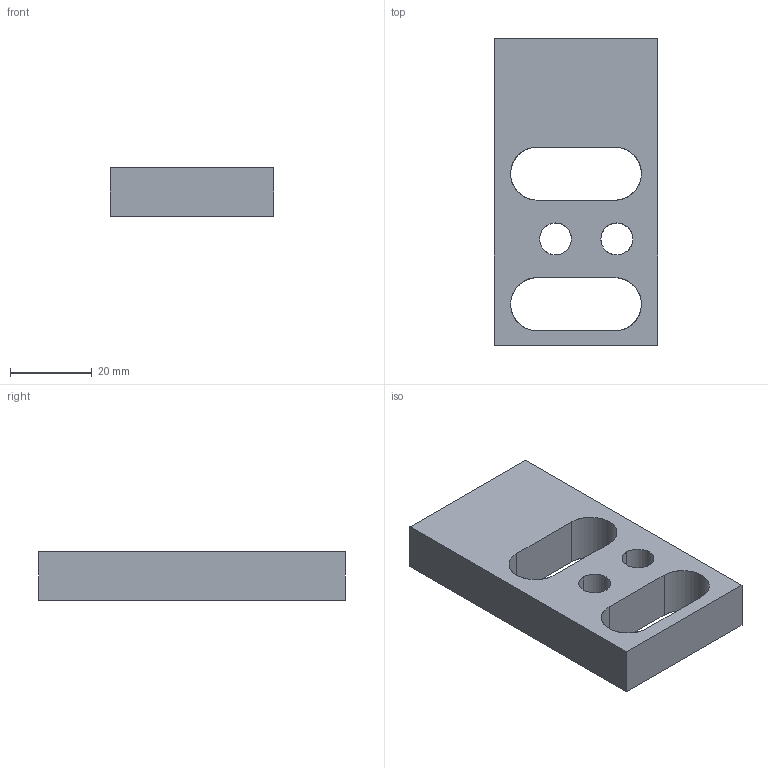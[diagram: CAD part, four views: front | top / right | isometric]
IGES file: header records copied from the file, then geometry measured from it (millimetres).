
Global section: file name: E:\UnigraphicsGraphicData\MISUMI_PRESS-PARTS\IGES\3d_teb12-13_01646_r00.igs; native system: NX V5.0; preprocessor: UGS NX IGES V5.0; author: MISUMI; date: 20110105.163419; units: millimetre
Bounding box: 40 x 75 x 12 mm (x, y, z)
Surface area: 9527.8 mm2 (no closed solid volume)
Topology: 0 solids, 0 shells, 18 faces, 144 edges, 144 vertices
Faces by surface type: bspline 18
